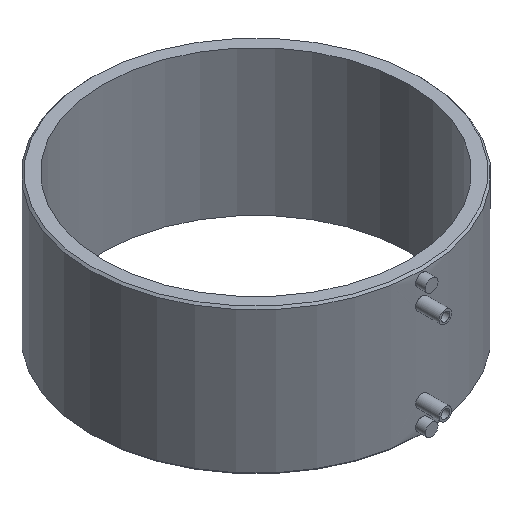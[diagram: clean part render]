
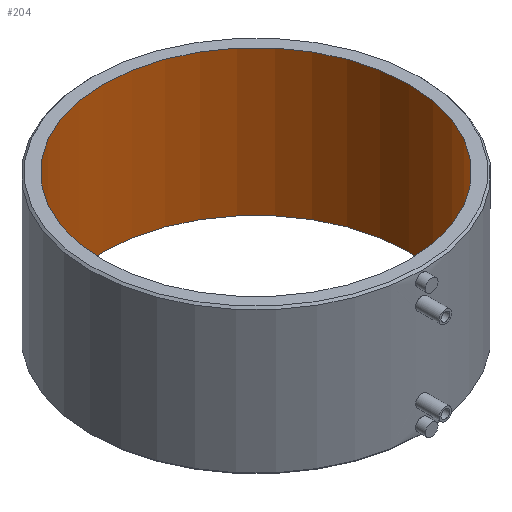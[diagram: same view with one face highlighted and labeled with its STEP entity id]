
A CAD part, isometric view. The second image highlights one B-rep face of the part: STEP entity #204.
In plain terms, the highlighted cylindrical face has radius 157.5 mm (diameter 315 mm), a full revolution.
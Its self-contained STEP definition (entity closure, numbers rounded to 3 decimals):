
#30=CYLINDRICAL_SURFACE($,#235,157.5);
#54=FACE_BOUND($,#98,.T.);
#64=FACE_OUTER_BOUND($,#97,.T.);
#97=EDGE_LOOP($,(#181));
#98=EDGE_LOOP($,(#182));
#110=CIRCLE($,#220,157.5);
#112=CIRCLE($,#224,157.5);
#126=VERTEX_POINT($,#456);
#128=VERTEX_POINT($,#462);
#144=EDGE_CURVE($,#126,#126,#110,.T.);
#146=EDGE_CURVE($,#128,#128,#112,.T.);
#181=ORIENTED_EDGE($,*,*,#144,.F.);
#182=ORIENTED_EDGE($,*,*,#146,.F.);
#204=ADVANCED_FACE($,(#64,#54),#30,.F.);
#220=AXIS2_PLACEMENT_3D($,#457,#258,#259);
#224=AXIS2_PLACEMENT_3D($,#463,#266,#267);
#235=AXIS2_PLACEMENT_3D($,#548,#288,#289);
#258=DIRECTION('center_axis',(0.,0.,1.));
#259=DIRECTION('ref_axis',(-1.,0.,0.));
#266=DIRECTION('center_axis',(0.,0.,-1.));
#267=DIRECTION('ref_axis',(-1.,0.,0.));
#288=DIRECTION('center_axis',(0.,0.,1.));
#289=DIRECTION('ref_axis',(-1.,0.,0.));
#456=CARTESIAN_POINT('',(157.5,0.,-75.));
#457=CARTESIAN_POINT('Origin',(0.,0.,-75.));
#462=CARTESIAN_POINT('',(157.5,0.,75.));
#463=CARTESIAN_POINT('Origin',(0.,0.,75.));
#548=CARTESIAN_POINT('Origin',(0.,0.,0.));
